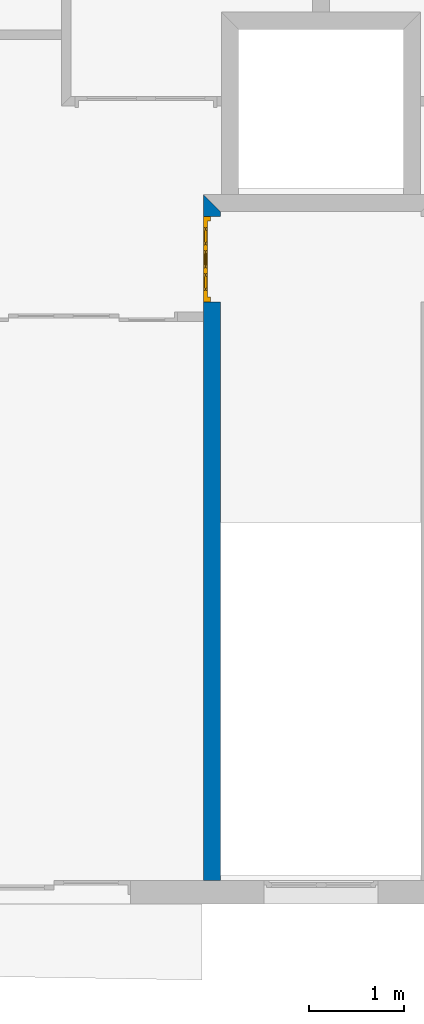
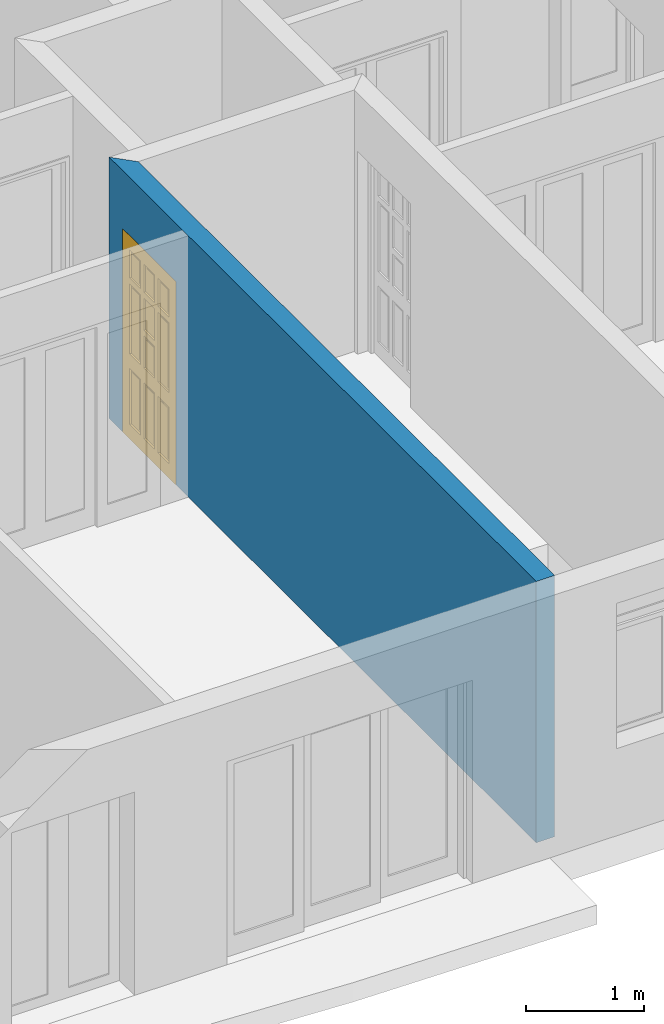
# One storey, part 5 of 13: 1 door, 1 wall, 1 opening.
"""IFC2X3 building model written with IfcOpenShell, lengths in metres."""

from ifc_helpers import new_model, entity, si_unit, converted_unit, direction, frame, frame_2d, origin_with_axes, place, context, project, spatial, polyline, rectangle, outline, extrude, faceted_brep, source, transform, mapped, material, layer, layer_set, layer_usage, type_object, element, fill, save


model = new_model("IFC2X3")

# Units and contexts
context_of_model = context(None, 3, precision=1e-05, world=origin_with_axes(), true_north=direction((6.123234e-17, 1.0)))
plan_context = context("Plan", 3, precision=1e-05, world=origin_with_axes(), true_north=direction((6.123234e-17, 1.0)))
model_context = context("Model", 3, precision=1e-05, world=origin_with_axes(), true_north=direction((6.123234e-17, 1.0)))
ifc_project = project(units=[si_unit("LENGTHUNIT", "METRE"), si_unit("AREAUNIT", "SQUARE_METRE"), si_unit("VOLUMEUNIT", "CUBIC_METRE"), converted_unit("PLANEANGLEUNIT", "DEGREE", entity("IfcPlaneAngleMeasure", 0.017453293), si_unit("PLANEANGLEUNIT", "RADIAN"), dimensions=[0, 0, 0, 0, 0, 0, 0]), si_unit("SOLIDANGLEUNIT", "STERADIAN"), si_unit("MASSUNIT", "GRAM"), si_unit("TIMEUNIT", "SECOND"), si_unit("THERMODYNAMICTEMPERATUREUNIT", "DEGREE_CELSIUS"), si_unit("LUMINOUSINTENSITYUNIT", "LUMEN")], contexts=[context_of_model, plan_context, model_context])

# Site, building, storey
site_placement = place(None, origin_with_axes())
site = spatial("IfcSite", under=ifc_project, at=site_placement, Name="Por defecto Sitio", CompositionType="ELEMENT")
building_placement = place(site_placement, origin_with_axes())
building = spatial("IfcBuilding", under=site, at=building_placement, Name="Por defecto Edificio", CompositionType="ELEMENT")
storey_placement = place(building_placement, frame((0.0, 0.0, 7.2), z_axis=(0.0, 0.0, 1.0), x_axis=(1.0, 0.0, 0.0)))
storey = spatial("IfcBuildingStorey", under=building, at=storey_placement, Name="Segunda", CompositionType="ELEMENT", Elevation=7.2)

# Wall, opening, door
ifc_material = material(Name="Ladrillo común")
ifc_layer = layer(ifc_material, 0.18, ventilated="UNKNOWN")
ifc_layer_set = layer_set([ifc_layer], Name="Ladrillo común")
ifc_layer_usage = layer_usage(ifc_layer_set, "AXIS2", "NEGATIVE", 0.0)
wall_type = type_object("IfcWallType", Name="Ladrillo común", PredefinedType="NOTDEFINED")
wall_placement = place(storey_placement, frame((6.9566603, 7.2976562, 0.0), z_axis=(0.0, 0.0, 1.0), x_axis=(0.0, -1.0, 0.0)))
wall = element("IfcWallStandardCase", 1, at=wall_placement, inside=storey, type_object=wall_type, material=ifc_layer_usage, Name="Muro-010", context=context_of_model, shape_type="SweptSolid", body=[
    extrude(outline(polyline([(-0.18, -0.18), (7.0476562, -0.18), (7.0476562, 0.0), (-8.0824236e-14, 0.0), (-0.18, -0.18)])), origin_with_axes(), (0.0, 0.0, 1.0), 2.7),
])
opening_placement = place(wall_placement, frame((0.5, -0.18, 0.0), z_axis=(0.0, 0.0, 1.0), x_axis=(1.0, 0.0, 0.0)))
opening = element("IfcOpeningElement", 2, at=opening_placement, cuts=wall, ObjectType="Opening", context=model_context, shape_type="SweptSolid", body=[
    extrude(rectangle(XDim=0.9, YDim=2.1, at=frame_2d((0.0, 1.05), x_axis=(-1.0, 0.0))), frame((0.0, 0.0, 0.0), z_axis=(0.0, 1.0, 0.0), x_axis=(-1.0, 0.0, 0.0)), (0.0, 0.0, 1.0), 0.18),
])
door_style = type_object("IfcDoorStyle", Name="P1 Entrada 12", ConstructionType="NOTDEFINED", OperationType="SINGLE_SWING_LEFT", ParameterTakesPrecedence=False, Sizeable=False)
shared_shape = source(origin_with_axes(), model_context, "Body", "Brep", [
    faceted_brep([(0.85, 0.031, 0.0), (0.85, -8.8817842e-16, 0.0), (0.85, -8.8817842e-16, 2.05), (0.85, 0.031, 2.05), (0.862, 0.031, 0.0), (0.862, 0.075, 0.0), (0.9, 0.075, 0.0), (0.9, -8.8817842e-16, 0.0), (0.9, -8.8817842e-16, 2.05), (0.862, 0.031, 2.05), (0.9, 0.075, 2.05), (0.862, 0.075, 2.05)], [[[0, 1, 2, 3]], [[4, 5, 6, 7, 1, 0]], [[7, 8, 2, 1]], [[9, 3, 2, 8, 10, 11]], [[9, 4, 0, 3]], [[11, 5, 4, 9]], [[11, 10, 6, 5]], [[8, 7, 6, 10]]]),
    faceted_brep([(0.038, 0.031, 2.05), (0.038, 0.075, 2.05), (0.0, 0.075, 2.05), (0.0, -8.8817842e-16, 2.05), (0.05, -8.8817842e-16, 2.05), (0.05, 0.031, 2.05), (0.038, 0.031, 0.0), (0.038, 0.075, 0.0), (0.0, 0.075, 0.0), (0.0, 0.0, 0.0), (0.05, -8.8817842e-16, 0.0), (0.05, 0.031, 0.0)], [[[0, 1, 2, 3, 4, 5]], [[0, 6, 7, 1]], [[7, 8, 2, 1]], [[9, 3, 2, 8]], [[10, 4, 3, 9]], [[5, 4, 10, 11]], [[5, 11, 6, 0]], [[6, 11, 10, 9, 8, 7]]]),
    faceted_brep([(0.862, 0.075, 2.062), (0.038, 0.075, 2.062), (0.038, 0.075, 2.05), (0.0, 0.075, 2.05), (0.0, 0.075, 2.1), (0.9, 0.075, 2.1), (0.9, 0.075, 2.05), (0.862, 0.075, 2.05), (0.862, 0.031, 2.062), (0.038, 0.031, 2.062), (0.038, 0.031, 2.05), (0.05, 0.031, 2.05), (0.05, -8.8817842e-16, 2.05), (0.0, -8.8817842e-16, 2.05), (0.0, -8.8817842e-16, 2.1), (0.9, -8.8817842e-16, 2.1), (0.9, -8.8817842e-16, 2.05), (0.862, 0.031, 2.05), (0.85, -8.8817842e-16, 2.05), (0.85, 0.031, 2.05)], [[[0, 1, 2, 3, 4, 5, 6, 7]], [[0, 8, 9, 1]], [[1, 9, 10, 2]], [[10, 11, 12, 13, 3, 2]], [[13, 14, 4, 3]], [[14, 15, 5, 4]], [[15, 16, 6, 5]], [[17, 7, 6, 16, 18, 19]], [[7, 17, 8, 0]], [[10, 9, 8, 17, 19, 11]], [[19, 18, 12, 11]], [[14, 13, 12, 18, 16, 15]]]),
    faceted_brep([(0.038, 0.075, 0.15), (0.118, 0.075, 0.15), (0.118, 0.031, 0.15), (0.038, 0.031, 0.15), (0.038, 0.075, 1.952), (0.118, 0.075, 1.952), (0.118, 0.075, 1.6618667), (0.118, 0.075, 1.6018667), (0.118, 0.075, 0.88), (0.118, 0.075, 0.73), (0.118, 0.031, 0.73), (0.118, 0.031, 0.88), (0.118, 0.031, 1.6018667), (0.118, 0.031, 1.6618667), (0.118, 0.031, 1.952), (0.038, 0.031, 1.952)], [[[0, 1, 2, 3]], [[0, 4, 5, 6, 7, 8, 9, 1]], [[1, 9, 10, 2]], [[3, 2, 10, 11, 12, 13, 14, 15]], [[4, 0, 3, 15]], [[5, 4, 15, 14]], [[6, 5, 14, 13]], [[7, 6, 13, 12]], [[8, 7, 12, 11]], [[9, 8, 11, 10]]]),
    faceted_brep([(0.862, 0.075, 0.15), (0.862, 0.075, 1.952), (0.862, 0.031, 1.952), (0.862, 0.031, 0.15), (0.782, 0.075, 0.15), (0.782, 0.075, 0.73), (0.782, 0.075, 0.88), (0.782, 0.075, 1.6018667), (0.782, 0.075, 1.6618667), (0.782, 0.075, 1.952), (0.782, 0.031, 1.952), (0.782, 0.031, 1.6618667), (0.782, 0.031, 1.6018667), (0.782, 0.031, 0.88), (0.782, 0.031, 0.73), (0.782, 0.031, 0.15)], [[[0, 1, 2, 3]], [[0, 4, 5, 6, 7, 8, 9, 1]], [[1, 9, 10, 2]], [[3, 2, 10, 11, 12, 13, 14, 15]], [[4, 0, 3, 15]], [[5, 4, 15, 14]], [[6, 5, 14, 13]], [[7, 6, 13, 12]], [[8, 7, 12, 11]], [[9, 8, 11, 10]]]),
    faceted_brep([(0.038, 0.075, 0.0), (0.862, 0.075, 0.0), (0.862, 0.031, 0.0), (0.038, 0.031, 0.0), (0.038, 0.075, 0.15), (0.118, 0.075, 0.15), (0.29933333, 0.075, 0.15), (0.35933333, 0.075, 0.15), (0.54066667, 0.075, 0.15), (0.60066667, 0.075, 0.15), (0.782, 0.075, 0.15), (0.862, 0.075, 0.15), (0.862, 0.031, 0.15), (0.782, 0.031, 0.15), (0.60066667, 0.031, 0.15), (0.54066667, 0.031, 0.15), (0.35933333, 0.031, 0.15), (0.29933333, 0.031, 0.15), (0.118, 0.031, 0.15), (0.038, 0.031, 0.15)], [[[0, 1, 2, 3]], [[0, 4, 5, 6, 7, 8, 9, 10, 11, 1]], [[1, 11, 12, 2]], [[3, 2, 12, 13, 14, 15, 16, 17, 18, 19]], [[4, 0, 3, 19]], [[5, 4, 19, 18]], [[6, 5, 18, 17]], [[7, 6, 17, 16]], [[8, 7, 16, 15]], [[9, 8, 15, 14]], [[10, 9, 14, 13]], [[11, 10, 13, 12]]]),
    faceted_brep([(0.038, 0.075, 2.062), (0.038, 0.075, 1.952), (0.038, 0.031, 1.952), (0.038, 0.031, 2.062), (0.862, 0.075, 2.062), (0.862, 0.075, 1.952), (0.782, 0.075, 1.952), (0.60066667, 0.075, 1.952), (0.54066667, 0.075, 1.952), (0.35933333, 0.075, 1.952), (0.29933333, 0.075, 1.952), (0.118, 0.075, 1.952), (0.118, 0.031, 1.952), (0.29933333, 0.031, 1.952), (0.35933333, 0.031, 1.952), (0.54066667, 0.031, 1.952), (0.60066667, 0.031, 1.952), (0.782, 0.031, 1.952), (0.862, 0.031, 1.952), (0.862, 0.031, 2.062)], [[[0, 1, 2, 3]], [[0, 4, 5, 6, 7, 8, 9, 10, 11, 1]], [[1, 11, 12, 2]], [[3, 2, 12, 13, 14, 15, 16, 17, 18, 19]], [[4, 0, 3, 19]], [[5, 4, 19, 18]], [[6, 5, 18, 17]], [[7, 6, 17, 16]], [[8, 7, 16, 15]], [[9, 8, 15, 14]], [[10, 9, 14, 13]], [[11, 10, 13, 12]]]),
    faceted_brep([(0.35933333, 0.075, 0.15), (0.35933333, 0.075, 0.73), (0.35933333, 0.031, 0.73), (0.35933333, 0.031, 0.15), (0.29933333, 0.075, 0.15), (0.29933333, 0.075, 0.73), (0.29933333, 0.031, 0.73), (0.29933333, 0.031, 0.15)], [[[0, 1, 2, 3]], [[0, 4, 5, 1]], [[1, 5, 6, 2]], [[3, 2, 6, 7]], [[4, 0, 3, 7]], [[5, 4, 7, 6]]]),
    faceted_brep([(0.35933333, 0.075, 0.88), (0.35933333, 0.075, 1.2109333), (0.35933333, 0.031, 1.2109333), (0.35933333, 0.031, 0.88), (0.29933333, 0.075, 0.88), (0.29933333, 0.075, 1.6018667), (0.35933333, 0.075, 1.6018667), (0.35933333, 0.075, 1.2709333), (0.35933333, 0.031, 1.2709333), (0.35933333, 0.031, 1.6018667), (0.29933333, 0.031, 1.6018667), (0.29933333, 0.031, 0.88)], [[[0, 1, 2, 3]], [[0, 4, 5, 6, 7, 1]], [[1, 7, 8, 2]], [[3, 2, 8, 9, 10, 11]], [[4, 0, 3, 11]], [[5, 4, 11, 10]], [[6, 5, 10, 9]], [[7, 6, 9, 8]]]),
    faceted_brep([(0.35933333, 0.075, 1.6618667), (0.35933333, 0.075, 1.952), (0.35933333, 0.031, 1.952), (0.35933333, 0.031, 1.6618667), (0.29933333, 0.075, 1.6618667), (0.29933333, 0.075, 1.952), (0.29933333, 0.031, 1.952), (0.29933333, 0.031, 1.6618667)], [[[0, 1, 2, 3]], [[0, 4, 5, 1]], [[1, 5, 6, 2]], [[3, 2, 6, 7]], [[4, 0, 3, 7]], [[5, 4, 7, 6]]]),
    faceted_brep([(0.60066667, 0.075, 0.15), (0.60066667, 0.075, 0.73), (0.60066667, 0.031, 0.73), (0.60066667, 0.031, 0.15), (0.54066667, 0.075, 0.15), (0.54066667, 0.075, 0.73), (0.54066667, 0.031, 0.73), (0.54066667, 0.031, 0.15)], [[[0, 1, 2, 3]], [[0, 4, 5, 1]], [[1, 5, 6, 2]], [[3, 2, 6, 7]], [[4, 0, 3, 7]], [[5, 4, 7, 6]]]),
    faceted_brep([(0.60066667, 0.075, 0.88), (0.60066667, 0.075, 1.6018667), (0.60066667, 0.031, 1.6018667), (0.60066667, 0.031, 0.88), (0.54066667, 0.075, 0.88), (0.54066667, 0.075, 1.2109333), (0.54066667, 0.075, 1.2709333), (0.54066667, 0.075, 1.6018667), (0.54066667, 0.031, 1.6018667), (0.54066667, 0.031, 1.2709333), (0.54066667, 0.031, 1.2109333), (0.54066667, 0.031, 0.88)], [[[0, 1, 2, 3]], [[0, 4, 5, 6, 7, 1]], [[1, 7, 8, 2]], [[3, 2, 8, 9, 10, 11]], [[4, 0, 3, 11]], [[5, 4, 11, 10]], [[6, 5, 10, 9]], [[7, 6, 9, 8]]]),
    faceted_brep([(0.60066667, 0.075, 1.6618667), (0.60066667, 0.075, 1.952), (0.60066667, 0.031, 1.952), (0.60066667, 0.031, 1.6618667), (0.54066667, 0.075, 1.6618667), (0.54066667, 0.075, 1.952), (0.54066667, 0.031, 1.952), (0.54066667, 0.031, 1.6618667)], [[[0, 1, 2, 3]], [[0, 4, 5, 1]], [[1, 5, 6, 2]], [[3, 2, 6, 7]], [[4, 0, 3, 7]], [[5, 4, 7, 6]]]),
    faceted_brep([(0.118, 0.075, 1.6018667), (0.29933333, 0.075, 1.6018667), (0.29933333, 0.031, 1.6018667), (0.118, 0.031, 1.6018667), (0.118, 0.075, 1.6618667), (0.29933333, 0.075, 1.6618667), (0.35933333, 0.075, 1.6618667), (0.54066667, 0.075, 1.6618667), (0.60066667, 0.075, 1.6618667), (0.782, 0.075, 1.6618667), (0.782, 0.075, 1.6018667), (0.60066667, 0.075, 1.6018667), (0.54066667, 0.075, 1.6018667), (0.35933333, 0.075, 1.6018667), (0.35933333, 0.031, 1.6018667), (0.54066667, 0.031, 1.6018667), (0.60066667, 0.031, 1.6018667), (0.782, 0.031, 1.6018667), (0.782, 0.031, 1.6618667), (0.60066667, 0.031, 1.6618667), (0.54066667, 0.031, 1.6618667), (0.35933333, 0.031, 1.6618667), (0.29933333, 0.031, 1.6618667), (0.118, 0.031, 1.6618667)], [[[0, 1, 2, 3]], [[0, 4, 5, 6, 7, 8, 9, 10, 11, 12, 13, 1]], [[1, 13, 14, 2]], [[3, 2, 14, 15, 16, 17, 18, 19, 20, 21, 22, 23]], [[4, 0, 3, 23]], [[5, 4, 23, 22]], [[6, 5, 22, 21]], [[7, 6, 21, 20]], [[8, 7, 20, 19]], [[9, 8, 19, 18]], [[10, 9, 18, 17]], [[11, 10, 17, 16]], [[12, 11, 16, 15]], [[13, 12, 15, 14]]]),
    faceted_brep([(0.54066667, 0.075, 1.2109333), (0.54066667, 0.075, 1.2709333), (0.54066667, 0.031, 1.2709333), (0.54066667, 0.031, 1.2109333), (0.35933333, 0.075, 1.2109333), (0.35933333, 0.075, 1.2709333), (0.35933333, 0.031, 1.2709333), (0.35933333, 0.031, 1.2109333)], [[[0, 1, 2, 3]], [[0, 4, 5, 1]], [[1, 5, 6, 2]], [[3, 2, 6, 7]], [[4, 0, 3, 7]], [[5, 4, 7, 6]]]),
    faceted_brep([(0.118, 0.075, 0.73), (0.29933333, 0.075, 0.73), (0.29933333, 0.031, 0.73), (0.118, 0.031, 0.73), (0.118, 0.075, 0.88), (0.29933333, 0.075, 0.88), (0.35933333, 0.075, 0.88), (0.54066667, 0.075, 0.88), (0.60066667, 0.075, 0.88), (0.782, 0.075, 0.88), (0.782, 0.075, 0.73), (0.60066667, 0.075, 0.73), (0.54066667, 0.075, 0.73), (0.35933333, 0.075, 0.73), (0.35933333, 0.031, 0.73), (0.54066667, 0.031, 0.73), (0.60066667, 0.031, 0.73), (0.782, 0.031, 0.73), (0.782, 0.031, 0.88), (0.60066667, 0.031, 0.88), (0.54066667, 0.031, 0.88), (0.35933333, 0.031, 0.88), (0.29933333, 0.031, 0.88), (0.118, 0.031, 0.88)], [[[0, 1, 2, 3]], [[0, 4, 5, 6, 7, 8, 9, 10, 11, 12, 13, 1]], [[1, 13, 14, 2]], [[3, 2, 14, 15, 16, 17, 18, 19, 20, 21, 22, 23]], [[4, 0, 3, 23]], [[5, 4, 23, 22]], [[6, 5, 22, 21]], [[7, 6, 21, 20]], [[8, 7, 20, 19]], [[9, 8, 19, 18]], [[10, 9, 18, 17]], [[11, 10, 17, 16]], [[12, 11, 16, 15]], [[13, 12, 15, 14]]]),
    faceted_brep([(0.118, 0.058, 0.15), (0.29933333, 0.058, 0.15), (0.29933333, 0.048, 0.15), (0.118, 0.048, 0.15), (0.118, 0.058, 0.73), (0.29933333, 0.058, 0.73), (0.29933333, 0.048, 0.73), (0.118, 0.048, 0.73)], [[[0, 1, 2, 3]], [[0, 4, 5, 1]], [[1, 5, 6, 2]], [[3, 2, 6, 7]], [[4, 0, 3, 7]], [[5, 4, 7, 6]]]),
    faceted_brep([(0.35933333, 0.058, 0.15), (0.54066667, 0.058, 0.15), (0.54066667, 0.048, 0.15), (0.35933333, 0.048, 0.15), (0.35933333, 0.058, 0.73), (0.54066667, 0.058, 0.73), (0.54066667, 0.048, 0.73), (0.35933333, 0.048, 0.73)], [[[0, 1, 2, 3]], [[0, 4, 5, 1]], [[1, 5, 6, 2]], [[3, 2, 6, 7]], [[4, 0, 3, 7]], [[5, 4, 7, 6]]]),
    faceted_brep([(0.60066667, 0.058, 0.15), (0.782, 0.058, 0.15), (0.782, 0.048, 0.15), (0.60066667, 0.048, 0.15), (0.60066667, 0.058, 0.73), (0.782, 0.058, 0.73), (0.782, 0.048, 0.73), (0.60066667, 0.048, 0.73)], [[[0, 1, 2, 3]], [[0, 4, 5, 1]], [[1, 5, 6, 2]], [[3, 2, 6, 7]], [[4, 0, 3, 7]], [[5, 4, 7, 6]]]),
    faceted_brep([(0.118, 0.058, 1.6618667), (0.29933333, 0.058, 1.6618667), (0.29933333, 0.048, 1.6618667), (0.118, 0.048, 1.6618667), (0.118, 0.058, 1.952), (0.29933333, 0.058, 1.952), (0.29933333, 0.048, 1.952), (0.118, 0.048, 1.952)], [[[0, 1, 2, 3]], [[0, 4, 5, 1]], [[1, 5, 6, 2]], [[3, 2, 6, 7]], [[4, 0, 3, 7]], [[5, 4, 7, 6]]]),
    faceted_brep([(0.35933333, 0.058, 1.6618667), (0.54066667, 0.058, 1.6618667), (0.54066667, 0.048, 1.6618667), (0.35933333, 0.048, 1.6618667), (0.35933333, 0.058, 1.952), (0.54066667, 0.058, 1.952), (0.54066667, 0.048, 1.952), (0.35933333, 0.048, 1.952)], [[[0, 1, 2, 3]], [[0, 4, 5, 1]], [[1, 5, 6, 2]], [[3, 2, 6, 7]], [[4, 0, 3, 7]], [[5, 4, 7, 6]]]),
    faceted_brep([(0.60066667, 0.058, 1.6618667), (0.782, 0.058, 1.6618667), (0.782, 0.048, 1.6618667), (0.60066667, 0.048, 1.6618667), (0.60066667, 0.058, 1.952), (0.782, 0.058, 1.952), (0.782, 0.048, 1.952), (0.60066667, 0.048, 1.952)], [[[0, 1, 2, 3]], [[0, 4, 5, 1]], [[1, 5, 6, 2]], [[3, 2, 6, 7]], [[4, 0, 3, 7]], [[5, 4, 7, 6]]]),
    faceted_brep([(0.118, 0.058, 0.88), (0.29933333, 0.058, 0.88), (0.29933333, 0.048, 0.88), (0.118, 0.048, 0.88), (0.118, 0.058, 1.6018667), (0.29933333, 0.058, 1.6018667), (0.29933333, 0.048, 1.6018667), (0.118, 0.048, 1.6018667)], [[[0, 1, 2, 3]], [[0, 4, 5, 1]], [[1, 5, 6, 2]], [[3, 2, 6, 7]], [[4, 0, 3, 7]], [[5, 4, 7, 6]]]),
    faceted_brep([(0.35933333, 0.058, 0.88), (0.54066667, 0.058, 0.88), (0.54066667, 0.048, 0.88), (0.35933333, 0.048, 0.88), (0.35933333, 0.058, 1.2109333), (0.54066667, 0.058, 1.2109333), (0.54066667, 0.048, 1.2109333), (0.35933333, 0.048, 1.2109333)], [[[0, 1, 2, 3]], [[0, 4, 5, 1]], [[1, 5, 6, 2]], [[3, 2, 6, 7]], [[4, 0, 3, 7]], [[5, 4, 7, 6]]]),
    faceted_brep([(0.60066667, 0.058, 0.88), (0.782, 0.058, 0.88), (0.782, 0.048, 0.88), (0.60066667, 0.048, 0.88), (0.60066667, 0.058, 1.6018667), (0.782, 0.058, 1.6018667), (0.782, 0.048, 1.6018667), (0.60066667, 0.048, 1.6018667)], [[[0, 1, 2, 3]], [[0, 4, 5, 1]], [[1, 5, 6, 2]], [[3, 2, 6, 7]], [[4, 0, 3, 7]], [[5, 4, 7, 6]]]),
    faceted_brep([(0.35933333, 0.058, 1.2709333), (0.54066667, 0.058, 1.2709333), (0.54066667, 0.048, 1.2709333), (0.35933333, 0.048, 1.2709333), (0.35933333, 0.058, 1.6018667), (0.54066667, 0.058, 1.6018667), (0.54066667, 0.048, 1.6018667), (0.35933333, 0.048, 1.6018667)], [[[0, 1, 2, 3]], [[0, 4, 5, 1]], [[1, 5, 6, 2]], [[3, 2, 6, 7]], [[4, 0, 3, 7]], [[5, 4, 7, 6]]]),
    faceted_brep([(0.148, 0.066, 0.18), (0.26933333, 0.066, 0.18), (0.26933333, 0.058, 0.18), (0.148, 0.058, 0.18), (0.148, 0.066, 0.7), (0.26933333, 0.066, 0.7), (0.26933333, 0.058, 0.7), (0.148, 0.058, 0.7)], [[[0, 1, 2, 3]], [[0, 4, 5, 1]], [[1, 5, 6, 2]], [[3, 2, 6, 7]], [[4, 0, 3, 7]], [[5, 4, 7, 6]]]),
    faceted_brep([(0.38933333, 0.066, 0.18), (0.51066667, 0.066, 0.18), (0.51066667, 0.058, 0.18), (0.38933333, 0.058, 0.18), (0.38933333, 0.066, 0.7), (0.51066667, 0.066, 0.7), (0.51066667, 0.058, 0.7), (0.38933333, 0.058, 0.7)], [[[0, 1, 2, 3]], [[0, 4, 5, 1]], [[1, 5, 6, 2]], [[3, 2, 6, 7]], [[4, 0, 3, 7]], [[5, 4, 7, 6]]]),
    faceted_brep([(0.63066667, 0.066, 0.18), (0.752, 0.066, 0.18), (0.752, 0.058, 0.18), (0.63066667, 0.058, 0.18), (0.63066667, 0.066, 0.7), (0.752, 0.066, 0.7), (0.752, 0.058, 0.7), (0.63066667, 0.058, 0.7)], [[[0, 1, 2, 3]], [[0, 4, 5, 1]], [[1, 5, 6, 2]], [[3, 2, 6, 7]], [[4, 0, 3, 7]], [[5, 4, 7, 6]]]),
    faceted_brep([(0.148, 0.066, 1.6918667), (0.26933333, 0.066, 1.6918667), (0.26933333, 0.058, 1.6918667), (0.148, 0.058, 1.6918667), (0.148, 0.066, 1.922), (0.26933333, 0.066, 1.922), (0.26933333, 0.058, 1.922), (0.148, 0.058, 1.922)], [[[0, 1, 2, 3]], [[0, 4, 5, 1]], [[1, 5, 6, 2]], [[3, 2, 6, 7]], [[4, 0, 3, 7]], [[5, 4, 7, 6]]]),
    faceted_brep([(0.38933333, 0.066, 1.6918667), (0.51066667, 0.066, 1.6918667), (0.51066667, 0.058, 1.6918667), (0.38933333, 0.058, 1.6918667), (0.38933333, 0.066, 1.922), (0.51066667, 0.066, 1.922), (0.51066667, 0.058, 1.922), (0.38933333, 0.058, 1.922)], [[[0, 1, 2, 3]], [[0, 4, 5, 1]], [[1, 5, 6, 2]], [[3, 2, 6, 7]], [[4, 0, 3, 7]], [[5, 4, 7, 6]]]),
    faceted_brep([(0.63066667, 0.066, 1.6918667), (0.752, 0.066, 1.6918667), (0.752, 0.058, 1.6918667), (0.63066667, 0.058, 1.6918667), (0.63066667, 0.066, 1.922), (0.752, 0.066, 1.922), (0.752, 0.058, 1.922), (0.63066667, 0.058, 1.922)], [[[0, 1, 2, 3]], [[0, 4, 5, 1]], [[1, 5, 6, 2]], [[3, 2, 6, 7]], [[4, 0, 3, 7]], [[5, 4, 7, 6]]]),
    faceted_brep([(0.148, 0.066, 0.91), (0.26933333, 0.066, 0.91), (0.26933333, 0.058, 0.91), (0.148, 0.058, 0.91), (0.148, 0.066, 1.5718667), (0.26933333, 0.066, 1.5718667), (0.26933333, 0.058, 1.5718667), (0.148, 0.058, 1.5718667)], [[[0, 1, 2, 3]], [[0, 4, 5, 1]], [[1, 5, 6, 2]], [[3, 2, 6, 7]], [[4, 0, 3, 7]], [[5, 4, 7, 6]]]),
    faceted_brep([(0.38933333, 0.066, 0.91), (0.51066667, 0.066, 0.91), (0.51066667, 0.058, 0.91), (0.38933333, 0.058, 0.91), (0.38933333, 0.066, 1.1809333), (0.51066667, 0.066, 1.1809333), (0.51066667, 0.058, 1.1809333), (0.38933333, 0.058, 1.1809333)], [[[0, 1, 2, 3]], [[0, 4, 5, 1]], [[1, 5, 6, 2]], [[3, 2, 6, 7]], [[4, 0, 3, 7]], [[5, 4, 7, 6]]]),
    faceted_brep([(0.63066667, 0.066, 0.91), (0.752, 0.066, 0.91), (0.752, 0.058, 0.91), (0.63066667, 0.058, 0.91), (0.63066667, 0.066, 1.5718667), (0.752, 0.066, 1.5718667), (0.752, 0.058, 1.5718667), (0.63066667, 0.058, 1.5718667)], [[[0, 1, 2, 3]], [[0, 4, 5, 1]], [[1, 5, 6, 2]], [[3, 2, 6, 7]], [[4, 0, 3, 7]], [[5, 4, 7, 6]]]),
    faceted_brep([(0.148, 0.048, 0.18), (0.26933333, 0.048, 0.18), (0.26933333, 0.04, 0.18), (0.148, 0.04, 0.18), (0.148, 0.048, 0.7), (0.26933333, 0.048, 0.7), (0.26933333, 0.04, 0.7), (0.148, 0.04, 0.7)], [[[0, 1, 2, 3]], [[0, 4, 5, 1]], [[1, 5, 6, 2]], [[3, 2, 6, 7]], [[4, 0, 3, 7]], [[5, 4, 7, 6]]]),
    faceted_brep([(0.38933333, 0.048, 0.18), (0.51066667, 0.048, 0.18), (0.51066667, 0.04, 0.18), (0.38933333, 0.04, 0.18), (0.38933333, 0.048, 0.7), (0.51066667, 0.048, 0.7), (0.51066667, 0.04, 0.7), (0.38933333, 0.04, 0.7)], [[[0, 1, 2, 3]], [[0, 4, 5, 1]], [[1, 5, 6, 2]], [[3, 2, 6, 7]], [[4, 0, 3, 7]], [[5, 4, 7, 6]]]),
    faceted_brep([(0.63066667, 0.048, 0.18), (0.752, 0.048, 0.18), (0.752, 0.04, 0.18), (0.63066667, 0.04, 0.18), (0.63066667, 0.048, 0.7), (0.752, 0.048, 0.7), (0.752, 0.04, 0.7), (0.63066667, 0.04, 0.7)], [[[0, 1, 2, 3]], [[0, 4, 5, 1]], [[1, 5, 6, 2]], [[3, 2, 6, 7]], [[4, 0, 3, 7]], [[5, 4, 7, 6]]]),
    faceted_brep([(0.148, 0.048, 1.6918667), (0.26933333, 0.048, 1.6918667), (0.26933333, 0.04, 1.6918667), (0.148, 0.04, 1.6918667), (0.148, 0.048, 1.922), (0.26933333, 0.048, 1.922), (0.26933333, 0.04, 1.922), (0.148, 0.04, 1.922)], [[[0, 1, 2, 3]], [[0, 4, 5, 1]], [[1, 5, 6, 2]], [[3, 2, 6, 7]], [[4, 0, 3, 7]], [[5, 4, 7, 6]]]),
    faceted_brep([(0.38933333, 0.048, 1.6918667), (0.51066667, 0.048, 1.6918667), (0.51066667, 0.04, 1.6918667), (0.38933333, 0.04, 1.6918667), (0.38933333, 0.048, 1.922), (0.51066667, 0.048, 1.922), (0.51066667, 0.04, 1.922), (0.38933333, 0.04, 1.922)], [[[0, 1, 2, 3]], [[0, 4, 5, 1]], [[1, 5, 6, 2]], [[3, 2, 6, 7]], [[4, 0, 3, 7]], [[5, 4, 7, 6]]]),
    faceted_brep([(0.63066667, 0.048, 1.6918667), (0.752, 0.048, 1.6918667), (0.752, 0.04, 1.6918667), (0.63066667, 0.04, 1.6918667), (0.63066667, 0.048, 1.922), (0.752, 0.048, 1.922), (0.752, 0.04, 1.922), (0.63066667, 0.04, 1.922)], [[[0, 1, 2, 3]], [[0, 4, 5, 1]], [[1, 5, 6, 2]], [[3, 2, 6, 7]], [[4, 0, 3, 7]], [[5, 4, 7, 6]]]),
    faceted_brep([(0.148, 0.048, 0.91), (0.26933333, 0.048, 0.91), (0.26933333, 0.04, 0.91), (0.148, 0.04, 0.91), (0.148, 0.048, 1.5718667), (0.26933333, 0.048, 1.5718667), (0.26933333, 0.04, 1.5718667), (0.148, 0.04, 1.5718667)], [[[0, 1, 2, 3]], [[0, 4, 5, 1]], [[1, 5, 6, 2]], [[3, 2, 6, 7]], [[4, 0, 3, 7]], [[5, 4, 7, 6]]]),
    faceted_brep([(0.38933333, 0.048, 0.91), (0.51066667, 0.048, 0.91), (0.51066667, 0.04, 0.91), (0.38933333, 0.04, 0.91), (0.38933333, 0.048, 1.1809333), (0.51066667, 0.048, 1.1809333), (0.51066667, 0.04, 1.1809333), (0.38933333, 0.04, 1.1809333)], [[[0, 1, 2, 3]], [[0, 4, 5, 1]], [[1, 5, 6, 2]], [[3, 2, 6, 7]], [[4, 0, 3, 7]], [[5, 4, 7, 6]]]),
    faceted_brep([(0.63066667, 0.048, 0.91), (0.752, 0.048, 0.91), (0.752, 0.04, 0.91), (0.63066667, 0.04, 0.91), (0.63066667, 0.048, 1.5718667), (0.752, 0.048, 1.5718667), (0.752, 0.04, 1.5718667), (0.63066667, 0.04, 1.5718667)], [[[0, 1, 2, 3]], [[0, 4, 5, 1]], [[1, 5, 6, 2]], [[3, 2, 6, 7]], [[4, 0, 3, 7]], [[5, 4, 7, 6]]]),
])
door_placement = place(opening_placement, frame((0.45, 0.075, 0.0), z_axis=(0.0, 0.0, 1.0), x_axis=(-1.0, 0.0, 0.0)))
door = element("IfcDoor", 3, at=door_placement, inside=storey, type_object=door_style, Name="P12", OverallHeight=2.1, OverallWidth=0.9, context=model_context, shape_type="MappedRepresentation", body=[
    mapped(shared_shape, transform((0.0, 0.0, 0.0), scale=1.0)),
])
fill(opening, door)

save(model, "model.ifc")
